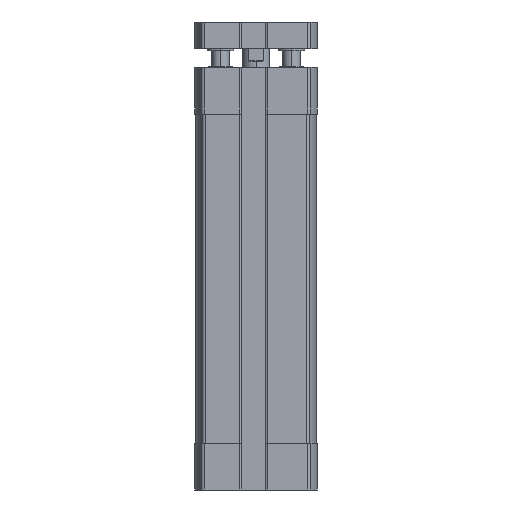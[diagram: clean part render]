
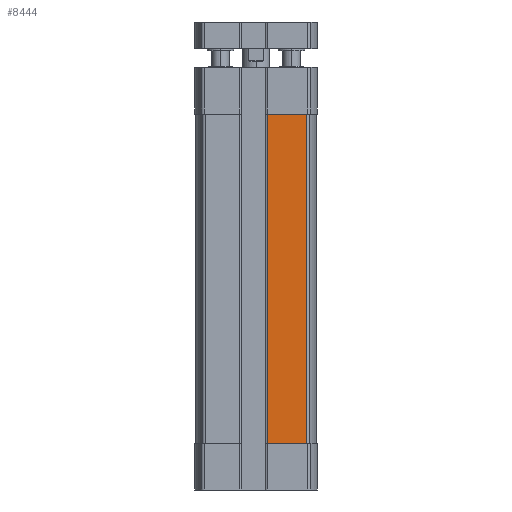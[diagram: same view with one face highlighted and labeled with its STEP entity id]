
A CAD part, front view. The second image highlights one B-rep face of the part: STEP entity #8444.
In plain terms, the highlighted face is a extrusion surface.
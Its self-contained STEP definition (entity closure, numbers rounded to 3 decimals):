
#8405=CARTESIAN_POINT('Control Point',(11.329,-13.5,-84.5)) ;
#8406=CARTESIAN_POINT('Control Point',(11.329,-13.5,-10.5)) ;
#8410=CARTESIAN_POINT('Line Origine',(6.915,-13.5,-10.5)) ;
#8414=CARTESIAN_POINT('Vertex',(11.329,-13.5,-10.5)) ;
#8416=CARTESIAN_POINT('Vertex',(2.5,-13.5,-10.5)) ;
#8419=CARTESIAN_POINT('Line Origine',(2.5,-13.5,-47.5)) ;
#8423=CARTESIAN_POINT('Vertex',(2.5,-13.5,-84.5)) ;
#8426=CARTESIAN_POINT('Line Origine',(6.915,-13.5,-84.5)) ;
#8430=CARTESIAN_POINT('Vertex',(11.329,-13.5,-84.5)) ;
#8433=CARTESIAN_POINT('Line Origine',(11.329,-13.5,-47.5)) ;
#8407=DIRECTION('Vector Direction',(-1.,0.,0.)) ;
#8411=DIRECTION('Vector Direction',(-1.,0.,0.)) ;
#8420=DIRECTION('Vector Direction',(0.,0.,1.)) ;
#8427=DIRECTION('Vector Direction',(-1.,0.,0.)) ;
#8434=DIRECTION('Vector Direction',(0.,0.,1.)) ;
#8408=VECTOR('Extrusion Surface Vector',#8407,1.) ;
#8412=VECTOR('Line Direction',#8411,1.) ;
#8421=VECTOR('Line Direction',#8420,1.) ;
#8428=VECTOR('Line Direction',#8427,1.) ;
#8435=VECTOR('Line Direction',#8434,1.) ;
#8439=ORIENTED_EDGE('',*,*,#8418,.T.) ;
#8440=ORIENTED_EDGE('',*,*,#8425,.T.) ;
#8441=ORIENTED_EDGE('',*,*,#8432,.T.) ;
#8442=ORIENTED_EDGE('',*,*,#8437,.T.) ;
#8444=ADVANCED_FACE('Surface.113',(#8443),#8409,.T.) ;
#8404=B_SPLINE_CURVE_WITH_KNOTS('',1,(#8405,#8406),.UNSPECIFIED.,.F.,.U.,(2,2),(-37.,37.),.UNSPECIFIED.) ;
#8418=EDGE_CURVE('',#8415,#8417,#8413,.T.) ;
#8425=EDGE_CURVE('',#8417,#8424,#8422,.F.) ;
#8432=EDGE_CURVE('',#8424,#8431,#8429,.F.) ;
#8437=EDGE_CURVE('',#8431,#8415,#8436,.T.) ;
#8438=EDGE_LOOP('',(#8439,#8440,#8441,#8442)) ;
#8443=FACE_OUTER_BOUND('',#8438,.T.) ;
#8413=LINE('Line',#8410,#8412) ;
#8422=LINE('Line',#8419,#8421) ;
#8429=LINE('Line',#8426,#8428) ;
#8436=LINE('Line',#8433,#8435) ;
#8409=SURFACE_OF_LINEAR_EXTRUSION('generated tabulated cylinder',#8404,#8408) ;
#8415=VERTEX_POINT('',#8414) ;
#8417=VERTEX_POINT('',#8416) ;
#8424=VERTEX_POINT('',#8423) ;
#8431=VERTEX_POINT('',#8430) ;
